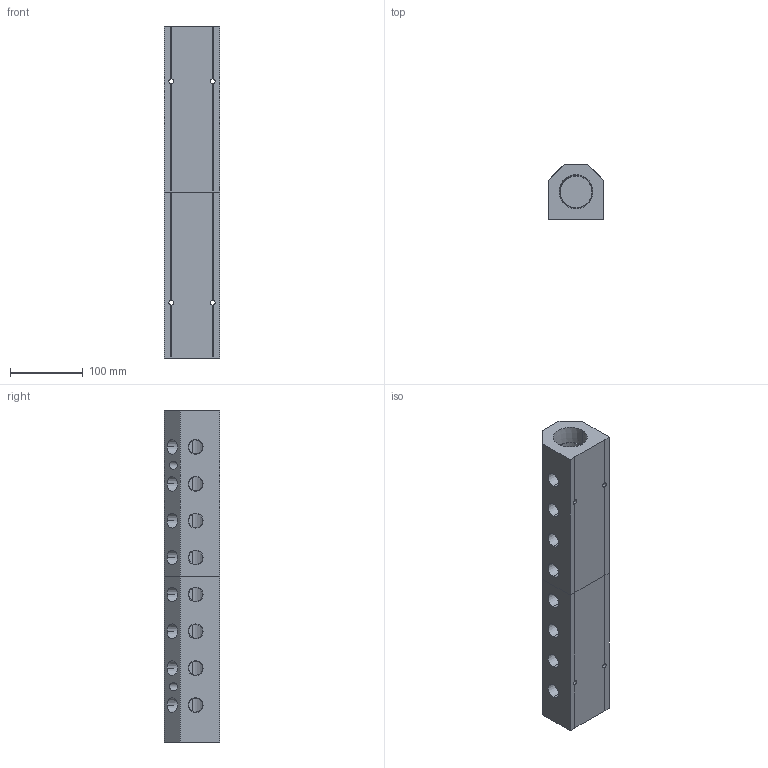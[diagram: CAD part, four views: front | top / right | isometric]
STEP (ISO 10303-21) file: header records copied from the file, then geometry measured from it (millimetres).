
FILE_DESCRIPTION (( 'STEP AP214' ), '1' );
FILE_NAME ('ALM8AB-N8N24-457RB.step', '2022-02-07T09:39:45', ( '' ), ( '' ), 'SwSTEP 2.0', 'SolidWorks 2020', '' );
FILE_SCHEMA (( 'AUTOMOTIVE_DESIGN' ));
Length unit declared in the file: millimetre
Products named in the file (1): ALM8AB-N8N24-457RB
Bounding box: 76.2 x 76.2 x 457 mm (x, y, z)
Volume: 1622217.7 mm3; surface area: 224596.9 mm2
Topology: 2 solids, 2 shells, 377 faces, 1012 edges, 672 vertices
Faces by surface type: plane 246, bspline 75, cone 36, cylinder 20
Entity records: 21165 total; most frequent: CARTESIAN_POINT 8681, ORIENTED_EDGE 2024, DIRECTION 1476, EDGE_CURVE 1012, VECTOR 726, LINE 726, VERTEX_POINT 672, EDGE_LOOP 450
